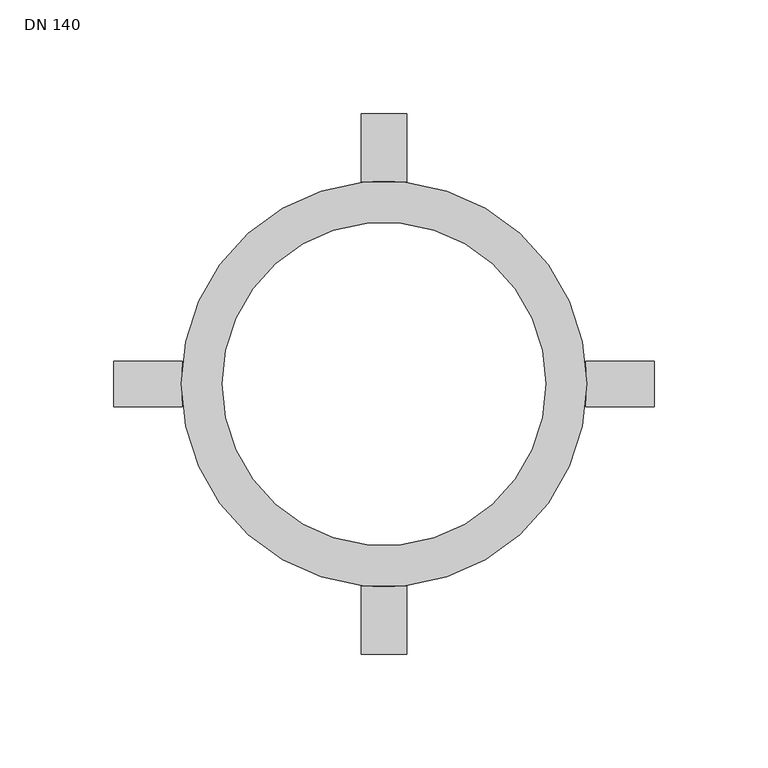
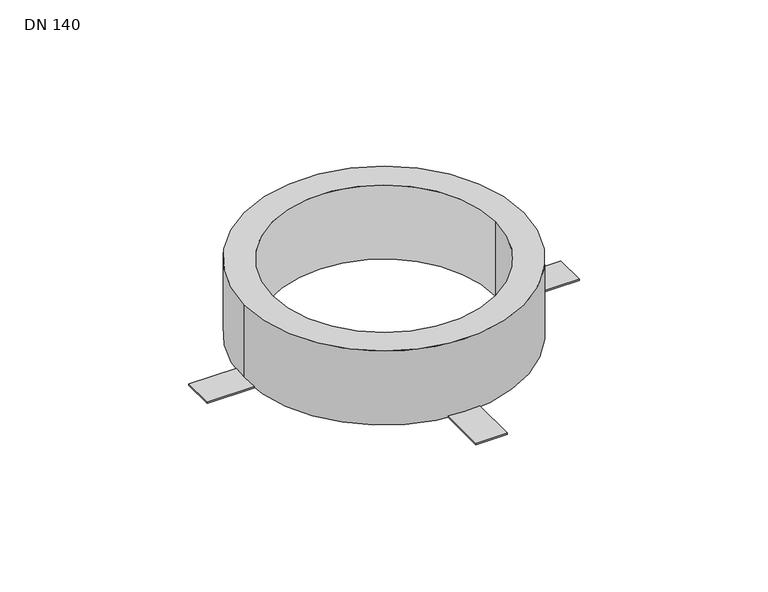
"""IFC4 building model written with IfcOpenShell, lengths in millimetres: proxy geometry, Wavin Brandmanschette für Decken : DN 140."""

from ifc_helpers import new_model, si_unit, point, origin, origin_with_axes, origin_2d, place, context, project, spatial, polyline, circle_curve, trimmed, segment, composite_curve, outline, extrude, source, transform, mapped, element, save


def dn_140_c881df7a(model_context):
    return source(origin(), model_context, "Body", "SweptSolid", [
        extrude(outline(composite_curve([segment(polyline([(118.5, 10.0), (118.5, -10.0), (88.4364178, -10.0)]), True, "CONTINUOUS"), segment(trimmed(circle_curve(origin_2d(), 89.0), [point((88.4364178, -10.0))], [point((88.4364178, 10.0))], True, "CARTESIAN"), True, "CONTINUOUS"), segment(polyline([(88.4364178, 10.0), (118.5, 10.0)]), True, "CONTINUOUS")], self_intersect=False)), origin_with_axes(), (0.0, 0.0, 1.0), 1.0),
        extrude(outline(composite_curve([segment(polyline([(-10.0, 118.5), (10.0, 118.5), (10.0, 88.4364178)]), True, "CONTINUOUS"), segment(trimmed(circle_curve(origin_2d(), 89.0), [point((10.0, 88.4364178))], [point((-10.0, 88.4364178))], True, "CARTESIAN"), True, "CONTINUOUS"), segment(polyline([(-10.0, 88.4364178), (-10.0, 118.5)]), True, "CONTINUOUS")], self_intersect=False)), origin_with_axes(), (0.0, 0.0, 1.0), 1.0),
        extrude(outline(composite_curve([segment(polyline([(-118.5, -10.0), (-118.5, 10.0), (-88.4364178, 10.0)]), True, "CONTINUOUS"), segment(trimmed(circle_curve(origin_2d(), 89.0), [point((-88.4364178, 10.0))], [point((-88.4364178, -10.0))], True, "CARTESIAN"), True, "CONTINUOUS"), segment(polyline([(-88.4364178, -10.0), (-118.5, -10.0)]), True, "CONTINUOUS")], self_intersect=False)), origin_with_axes(), (0.0, 0.0, 1.0), 1.0),
        extrude(outline(composite_curve([segment(polyline([(10.0, -118.5), (-10.0, -118.5), (-10.0, -88.4364178)]), True, "CONTINUOUS"), segment(trimmed(circle_curve(origin_2d(), 89.0), [point((-10.0, -88.4364178))], [point((10.0, -88.4364178))], True, "CARTESIAN"), True, "CONTINUOUS"), segment(polyline([(10.0, -88.4364178), (10.0, -118.5)]), True, "CONTINUOUS")], self_intersect=False)), origin_with_axes(), (0.0, 0.0, 1.0), 1.0),
        extrude(outline(composite_curve([segment(trimmed(circle_curve(origin_2d(), 89.0), [point((-89.0, 0.0))], [point((89.0, 0.0))], False, "CARTESIAN"), True, "CONTINUOUS"), segment(trimmed(circle_curve(origin_2d(), 89.0), [point((89.0, 0.0))], [point((-89.0, 0.0))], False, "CARTESIAN"), True, "CONTINUOUS")], self_intersect=False), holes=[composite_curve([segment(trimmed(circle_curve(origin_2d(), 71.0), [point((-71.0, 0.0))], [point((71.0, 0.0))], True, "CARTESIAN"), True, "CONTINUOUS"), segment(trimmed(circle_curve(origin_2d(), 71.0), [point((71.0, 0.0))], [point((-71.0, 0.0))], True, "CARTESIAN"), True, "CONTINUOUS")], self_intersect=False)]), origin_with_axes(), (0.0, 0.0, 1.0), 50.0),
    ])


if __name__ == "__main__":
    model = new_model("IFC4")
    model_context = context("Model", 3, world=origin())
    ifc_project = project(units=[si_unit("LENGTHUNIT", "METRE", prefix="MILLI")], contexts=[model_context])
    site = spatial("IfcSite", under=ifc_project)
    building = spatial("IfcBuilding", under=site)
    placement = place(None, origin())
    dn_140_shape = dn_140_c881df7a(model_context)
    element("IfcBuildingElementProxy", 1, Name="Wavin Brandmanschette für Decken : DN 140", ObjectType="Wavin Brandmanschette für Decken : DN 140", at=placement, inside=building, context=model_context, shape_type="MappedRepresentation", body=[
        mapped(dn_140_shape, transform((0.0, 0.0, 0.0), x_axis=(1.0, 0.0, 0.0), y_axis=(0.0, 1.0, 0.0), z_axis=(0.0, 0.0, 1.0))),
    ])
    save(model, "model.ifc")
